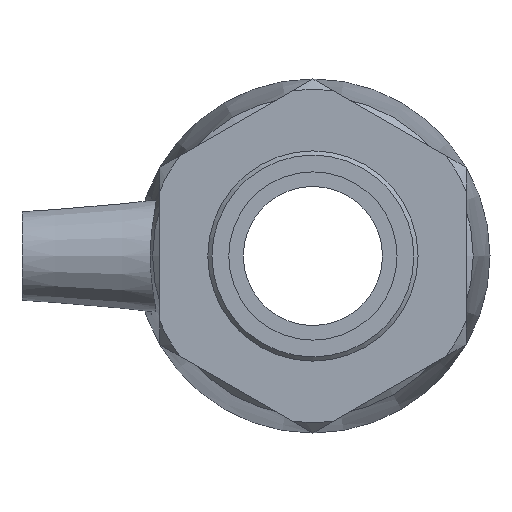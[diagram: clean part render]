
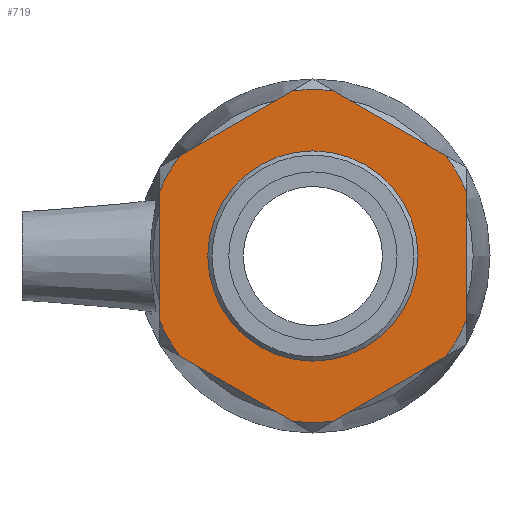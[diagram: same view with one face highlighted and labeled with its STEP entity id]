
A CAD part, left-side view. The second image highlights one B-rep face of the part: STEP entity #719.
In plain terms, the highlighted planar face has unit normal (-1, 0, 0).
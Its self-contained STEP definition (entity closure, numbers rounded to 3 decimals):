
#38=FACE_BOUND('',#220,.T.);
#65=CIRCLE('',#759,26.32);
#66=CIRCLE('',#761,26.32);
#67=CIRCLE('',#763,26.32);
#68=CIRCLE('',#765,26.32);
#69=CIRCLE('',#767,26.32);
#70=CIRCLE('',#769,26.32);
#86=CIRCLE('',#799,16.625);
#156=FACE_OUTER_BOUND('',#219,.T.);
#219=EDGE_LOOP('',(#606,#607,#608,#609,#610,#611,#612,#613,#614,#615,#616,
#617));
#220=EDGE_LOOP('',(#618));
#275=LINE('',#1077,#293);
#279=LINE('',#1101,#297);
#285=LINE('',#1141,#303);
#286=LINE('',#1148,#304);
#289=LINE('',#1170,#307);
#292=LINE('',#1201,#310);
#293=VECTOR('',#855,20.469);
#297=VECTOR('',#861,20.469);
#303=VECTOR('',#869,20.469);
#304=VECTOR('',#872,20.469);
#307=VECTOR('',#877,20.469);
#310=VECTOR('',#882,20.469);
#335=VERTEX_POINT('',#1071);
#337=VERTEX_POINT('',#1076);
#343=VERTEX_POINT('',#1096);
#344=VERTEX_POINT('',#1100);
#350=VERTEX_POINT('',#1119);
#356=VERTEX_POINT('',#1137);
#357=VERTEX_POINT('',#1143);
#358=VERTEX_POINT('',#1147);
#363=VERTEX_POINT('',#1165);
#364=VERTEX_POINT('',#1169);
#367=VERTEX_POINT('',#1184);
#370=VERTEX_POINT('',#1197);
#382=VERTEX_POINT('',#1322);
#407=EDGE_CURVE('',#337,#335,#275,.T.);
#415=EDGE_CURVE('',#344,#343,#279,.T.);
#428=EDGE_CURVE('',#350,#356,#285,.T.);
#430=EDGE_CURVE('',#358,#357,#286,.T.);
#437=EDGE_CURVE('',#364,#363,#289,.T.);
#447=EDGE_CURVE('',#367,#370,#292,.T.);
#448=EDGE_CURVE('',#358,#363,#65,.T.);
#449=EDGE_CURVE('',#364,#356,#66,.T.);
#450=EDGE_CURVE('',#350,#370,#67,.T.);
#451=EDGE_CURVE('',#344,#357,#68,.T.);
#452=EDGE_CURVE('',#337,#343,#69,.T.);
#453=EDGE_CURVE('',#367,#335,#70,.T.);
#471=EDGE_CURVE('',#382,#382,#86,.T.);
#606=ORIENTED_EDGE('',*,*,#407,.T.);
#607=ORIENTED_EDGE('',*,*,#453,.F.);
#608=ORIENTED_EDGE('',*,*,#447,.T.);
#609=ORIENTED_EDGE('',*,*,#450,.F.);
#610=ORIENTED_EDGE('',*,*,#428,.T.);
#611=ORIENTED_EDGE('',*,*,#449,.F.);
#612=ORIENTED_EDGE('',*,*,#437,.T.);
#613=ORIENTED_EDGE('',*,*,#448,.F.);
#614=ORIENTED_EDGE('',*,*,#430,.T.);
#615=ORIENTED_EDGE('',*,*,#451,.F.);
#616=ORIENTED_EDGE('',*,*,#415,.T.);
#617=ORIENTED_EDGE('',*,*,#452,.F.);
#618=ORIENTED_EDGE('',*,*,#471,.T.);
#682=PLANE('',#798);
#719=ADVANCED_FACE('',(#156,#38),#682,.T.);
#759=AXIS2_PLACEMENT_3D('',#1203,#885,#886);
#761=AXIS2_PLACEMENT_3D('',#1205,#889,#890);
#763=AXIS2_PLACEMENT_3D('',#1207,#893,#894);
#765=AXIS2_PLACEMENT_3D('',#1209,#897,#898);
#767=AXIS2_PLACEMENT_3D('',#1211,#901,#902);
#769=AXIS2_PLACEMENT_3D('',#1213,#905,#906);
#798=AXIS2_PLACEMENT_3D('',#1321,#963,#964);
#799=AXIS2_PLACEMENT_3D('',#1323,#965,#966);
#855=DIRECTION('',(0.,0.866,0.5));
#861=DIRECTION('',(0.,0.,1.));
#869=DIRECTION('',(0.,0.,-1.));
#872=DIRECTION('',(0.,-0.866,0.5));
#877=DIRECTION('',(0.,-0.866,-0.5));
#882=DIRECTION('',(0.,0.866,-0.5));
#885=DIRECTION('center_axis',(1.,0.,0.));
#886=DIRECTION('ref_axis',(0.,-1.,0.));
#889=DIRECTION('center_axis',(1.,0.,0.));
#890=DIRECTION('ref_axis',(0.,-1.,0.));
#893=DIRECTION('center_axis',(1.,0.,0.));
#894=DIRECTION('ref_axis',(0.,-1.,0.));
#897=DIRECTION('center_axis',(1.,0.,0.));
#898=DIRECTION('ref_axis',(0.,-1.,0.));
#901=DIRECTION('center_axis',(1.,0.,0.));
#902=DIRECTION('ref_axis',(0.,-1.,0.));
#905=DIRECTION('center_axis',(1.,0.,0.));
#906=DIRECTION('ref_axis',(0.,-1.,0.));
#963=DIRECTION('center_axis',(-1.,0.,0.));
#964=DIRECTION('ref_axis',(0.,0.,1.));
#965=DIRECTION('center_axis',(1.,0.,0.));
#966=DIRECTION('ref_axis',(0.,0.,-1.));
#1071=CARTESIAN_POINT('',(-60.35,-3.261,26.117));
#1076=CARTESIAN_POINT('',(-60.35,-20.988,15.883));
#1077=CARTESIAN_POINT('',(-60.35,4.438,30.562));
#1096=CARTESIAN_POINT('',(-60.35,-24.249,10.234));
#1100=CARTESIAN_POINT('',(-60.35,-24.249,-10.234));
#1101=CARTESIAN_POINT('',(-60.35,-24.249,7.));
#1119=CARTESIAN_POINT('',(-60.35,24.249,10.234));
#1137=CARTESIAN_POINT('',(-60.35,24.249,-10.234));
#1141=CARTESIAN_POINT('',(-60.35,24.249,-7.));
#1143=CARTESIAN_POINT('',(-60.35,-20.988,-15.883));
#1147=CARTESIAN_POINT('',(-60.35,-3.261,-26.117));
#1148=CARTESIAN_POINT('',(-60.35,-7.687,-23.562));
#1165=CARTESIAN_POINT('',(-60.35,3.261,-26.117));
#1169=CARTESIAN_POINT('',(-60.35,20.988,-15.883));
#1170=CARTESIAN_POINT('',(-60.35,16.562,-18.438));
#1184=CARTESIAN_POINT('',(-60.35,3.261,26.117));
#1197=CARTESIAN_POINT('',(-60.35,20.988,15.883));
#1201=CARTESIAN_POINT('',(-60.35,28.687,11.438));
#1203=CARTESIAN_POINT('Origin',(-60.35,0.,0.));
#1205=CARTESIAN_POINT('Origin',(-60.35,0.,0.));
#1207=CARTESIAN_POINT('Origin',(-60.35,0.,0.));
#1209=CARTESIAN_POINT('Origin',(-60.35,0.,0.));
#1211=CARTESIAN_POINT('Origin',(-60.35,0.,0.));
#1213=CARTESIAN_POINT('Origin',(-60.35,0.,0.));
#1321=CARTESIAN_POINT('Origin',(-60.35,28.,0.));
#1322=CARTESIAN_POINT('',(-60.35,16.625,0.));
#1323=CARTESIAN_POINT('Origin',(-60.35,0.,0.));
